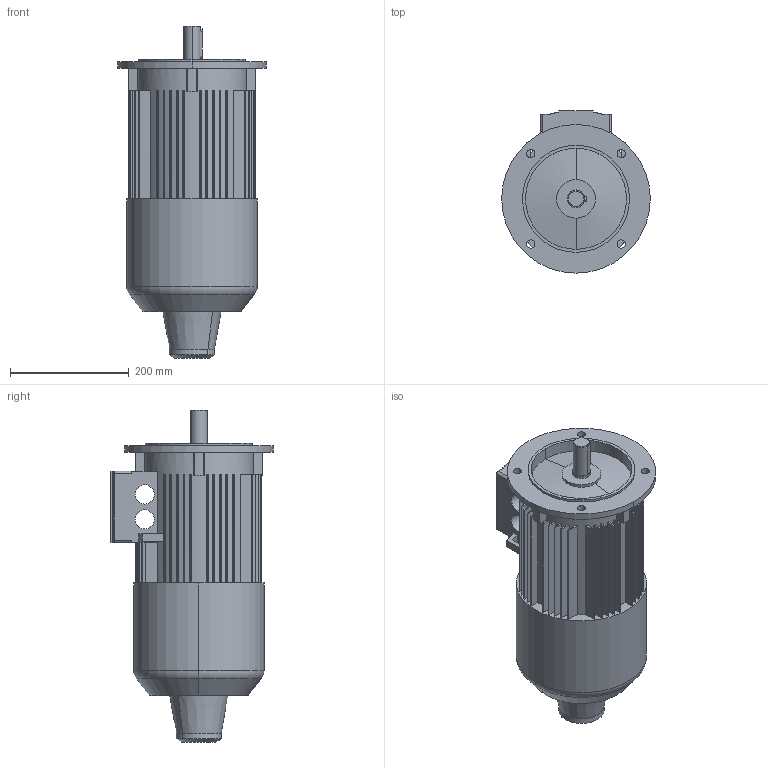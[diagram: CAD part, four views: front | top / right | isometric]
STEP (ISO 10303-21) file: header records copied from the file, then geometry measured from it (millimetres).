
FILE_DESCRIPTION((''),'2;1');
FILE_NAME('1LA7113-2AA11-Z-H62_PRT','2002-04-12T',('martin könig'),(''),'PRO/ENGINEER BY PARAMETRIC TECHNOLOGY CORPORATION, 2002030','PRO/ENGINEER BY PARAMETRIC TECHNOLOGY CORPORATION, 2002030','');
FILE_SCHEMA(('CONFIG_CONTROL_DESIGN'));
Length unit declared in the file: millimetre
Products named in the file (1): 1LA7113-2AA11-Z-H62_PRT
Bounding box: 250 x 273 x 558.5 mm (x, y, z)
Volume: 14418848.2 mm3; surface area: 658343.3 mm2
Topology: 1 solids, 1 shells, 268 faces, 758 edges, 500 vertices
Faces by surface type: plane 166, cylinder 88, cone 10, torus 4
Entity records: 8831 total; most frequent: CARTESIAN_POINT 1557, DIRECTION 1552, ORIENTED_EDGE 1516, EDGE_CURVE 758, AXIS2_PLACEMENT_3D 528, VERTEX_POINT 500, VECTOR 496, LINE 496
